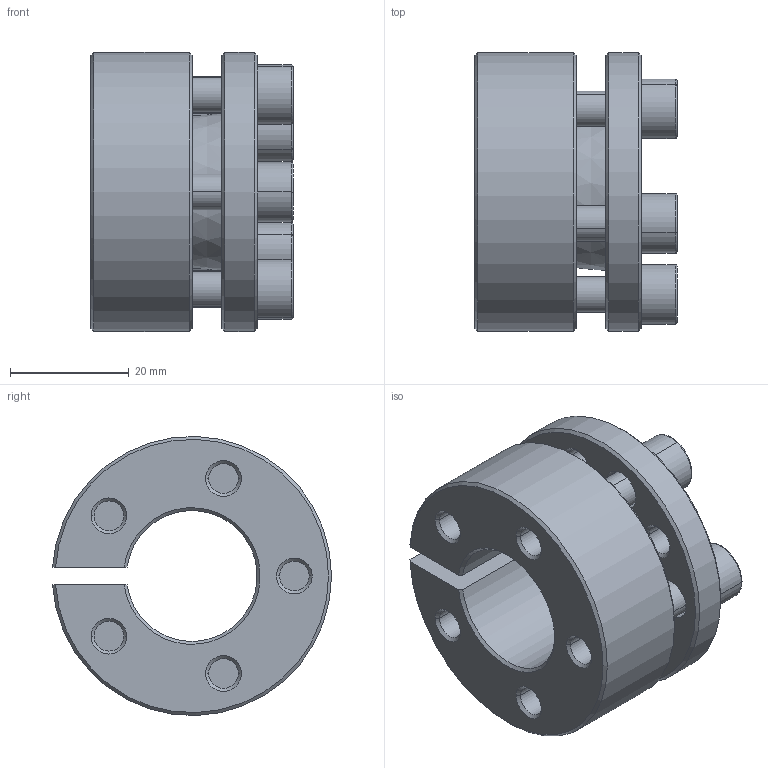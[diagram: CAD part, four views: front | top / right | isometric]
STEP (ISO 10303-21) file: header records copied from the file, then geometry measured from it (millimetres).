
FILE_DESCRIPTION((''),'2;1');
FILE_NAME('398-010-0022','2024-02-17T',('Brieden'),('Brieden'),'PRO/ENGINEER BY PARAMETRIC TECHNOLOGY CORPORATION, 2010160','PRO/ENGINEER BY PARAMETRIC TECHNOLOGY CORPORATION, 2010160','');
FILE_SCHEMA(('AUTOMOTIVE_DESIGN { 1 0 10303 214 1 1 1 1 }'));
Length unit declared in the file: millimetre
Products named in the file (1): 398-010-0022
Bounding box: 34 x 46.95 x 46.98 mm (x, y, z)
Volume: 32211.9 mm3; surface area: 15879.7 mm2
Topology: 1 solids, 6 shells, 154 faces, 364 edges, 232 vertices
Faces by surface type: cylinder 59, plane 56, cone 29, torus 10
Entity records: 5908 total; most frequent: DIRECTION 832, CARTESIAN_POINT 823, ORIENTED_EDGE 708, PRESENTATION_STYLE_ASSIGNMENT 384, STYLED_ITEM 370, CURVE_STYLE 364, EDGE_CURVE 364, AXIS2_PLACEMENT_3D 325
